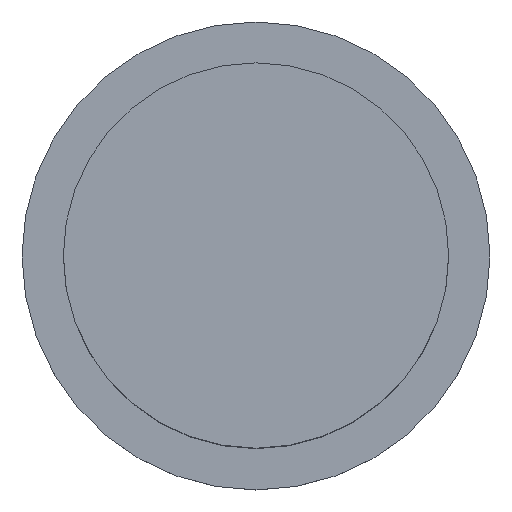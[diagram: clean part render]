
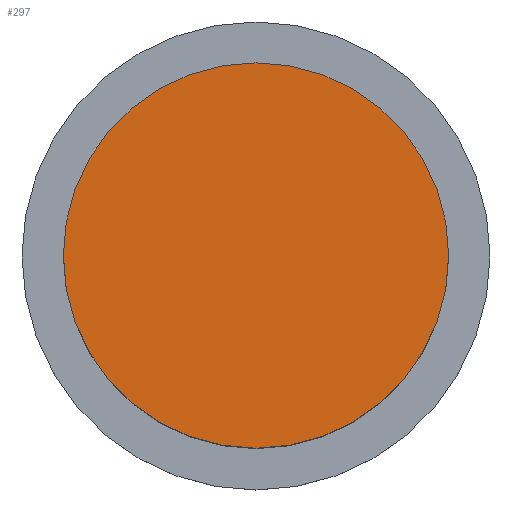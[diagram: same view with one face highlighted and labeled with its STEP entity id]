
A CAD part, top view. The second image highlights one B-rep face of the part: STEP entity #297.
In plain terms, the highlighted planar face has unit normal (0, 0, 1).
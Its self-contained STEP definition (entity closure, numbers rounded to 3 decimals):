
#227 = CYLINDRICAL_SURFACE('',#228,42.);
#228 = AXIS2_PLACEMENT_3D('',#229,#230,#231);
#229 = CARTESIAN_POINT('',(0.,0.,0.));
#230 = DIRECTION('',(-0.,-0.,-1.));
#231 = DIRECTION('',(1.,0.,0.));
#248 = VERTEX_POINT('',#249);
#249 = CARTESIAN_POINT('',(42.,0.,62.));
#270 = EDGE_CURVE('',#248,#248,#271,.T.);
#271 = SURFACE_CURVE('',#272,(#277,#284),.PCURVE_S1.);
#272 = CIRCLE('',#273,42.);
#273 = AXIS2_PLACEMENT_3D('',#274,#275,#276);
#274 = CARTESIAN_POINT('',(0.,0.,62.));
#275 = DIRECTION('',(0.,0.,1.));
#276 = DIRECTION('',(1.,0.,0.));
#277 = PCURVE('',#227,#278);
#278 = DEFINITIONAL_REPRESENTATION('',(#279),#283);
#279 = LINE('',#280,#281);
#280 = CARTESIAN_POINT('',(-0.,-62.));
#281 = VECTOR('',#282,1.);
#282 = DIRECTION('',(-1.,0.));
#283 = ( GEOMETRIC_REPRESENTATION_CONTEXT(2) 
PARAMETRIC_REPRESENTATION_CONTEXT() REPRESENTATION_CONTEXT('2D SPACE',''
  ) );
#284 = PCURVE('',#285,#290);
#285 = PLANE('',#286);
#286 = AXIS2_PLACEMENT_3D('',#287,#288,#289);
#287 = CARTESIAN_POINT('',(0.,0.,62.));
#288 = DIRECTION('',(0.,0.,1.));
#289 = DIRECTION('',(1.,0.,-0.));
#290 = DEFINITIONAL_REPRESENTATION('',(#291),#295);
#291 = CIRCLE('',#292,42.);
#292 = AXIS2_PLACEMENT_2D('',#293,#294);
#293 = CARTESIAN_POINT('',(0.,0.));
#294 = DIRECTION('',(1.,0.));
#295 = ( GEOMETRIC_REPRESENTATION_CONTEXT(2) 
PARAMETRIC_REPRESENTATION_CONTEXT() REPRESENTATION_CONTEXT('2D SPACE',''
  ) );
#297 = ADVANCED_FACE('',(#298),#285,.T.);
#298 = FACE_BOUND('',#299,.T.);
#299 = EDGE_LOOP('',(#300));
#300 = ORIENTED_EDGE('',*,*,#270,.T.);
